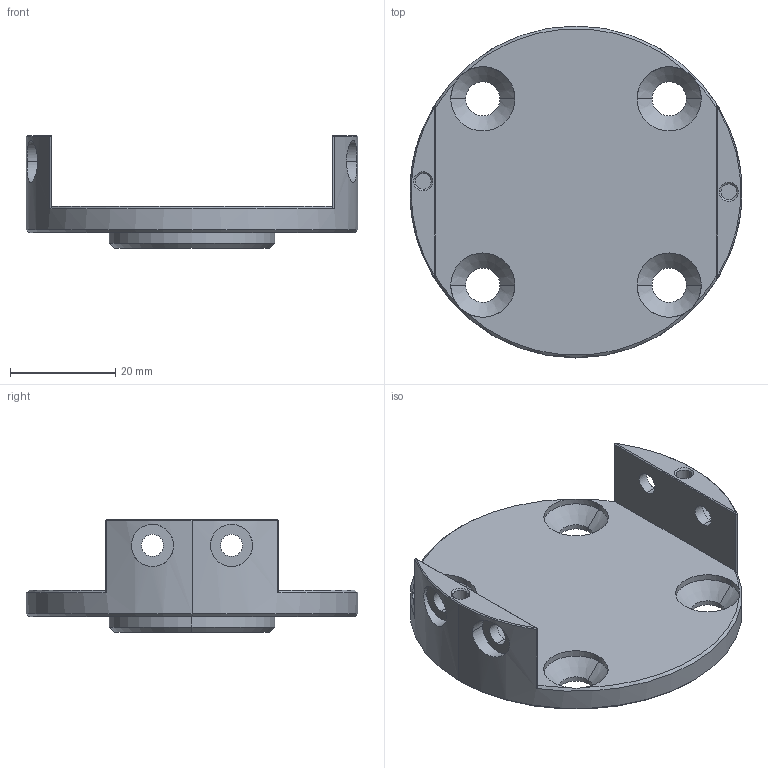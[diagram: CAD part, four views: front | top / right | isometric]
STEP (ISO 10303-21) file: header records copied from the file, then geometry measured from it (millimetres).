
FILE_DESCRIPTION (( 'STEP AP203' ), '1' );
FILE_NAME ('楊擘-PGC50.STEP', '2023-09-23T04:06:11', ( '' ), ( '' ), 'SwSTEP 2.0', 'SolidWorks 2020', '' );
FILE_SCHEMA (( 'CONFIG_CONTROL_DESIGN' ));
Length unit declared in the file: millimetre
Products named in the file (1): 楊擘-PGC50
Bounding box: 63 x 63 x 21.4 mm (x, y, z)
Volume: 17223.3 mm3; surface area: 9824.5 mm2
Topology: 1 solids, 1 shells, 96 faces, 230 edges, 137 vertices
Faces by surface type: cylinder 48, cone 27, plane 21
Entity records: 3158 total; most frequent: CARTESIAN_POINT 796, DIRECTION 511, ORIENTED_EDGE 452, EDGE_CURVE 226, AXIS2_PLACEMENT_3D 208, VERTEX_POINT 137, EDGE_LOOP 117, CIRCLE 111
